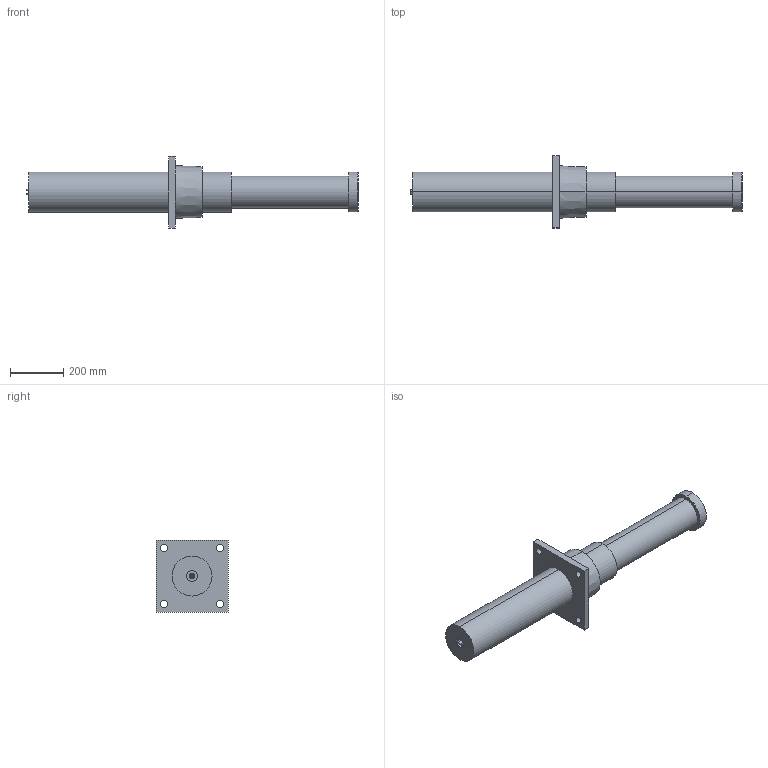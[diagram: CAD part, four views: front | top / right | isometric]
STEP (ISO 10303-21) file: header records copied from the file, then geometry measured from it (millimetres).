
FILE_DESCRIPTION (( 'STEP AP214' ), '1' );
FILE_NAME ('LDH150X400FF.STEP', '2019-01-21T05:03:07', ( 'user' ), ( 'Microsoft' ), 'SwSTEP 2.0', 'SolidWorks 2016', '' );
FILE_SCHEMA (( 'AUTOMOTIVE_DESIGN' ));
Length unit declared in the file: millimetre
Products named in the file (1): LDH150X400FF
Bounding box: 1245 x 270 x 270 mm (x, y, z)
Volume: 21506818.4 mm3; surface area: 732580.6 mm2
Topology: 1 solids, 5 shells, 63 faces, 136 edges, 90 vertices
Faces by surface type: cylinder 30, plane 29, cone 4
Entity records: 1790 total; most frequent: DIRECTION 338, CARTESIAN_POINT 290, ORIENTED_EDGE 272, AXIS2_PLACEMENT_3D 138, EDGE_CURVE 136, VERTEX_POINT 90, EDGE_LOOP 78, CIRCLE 74
